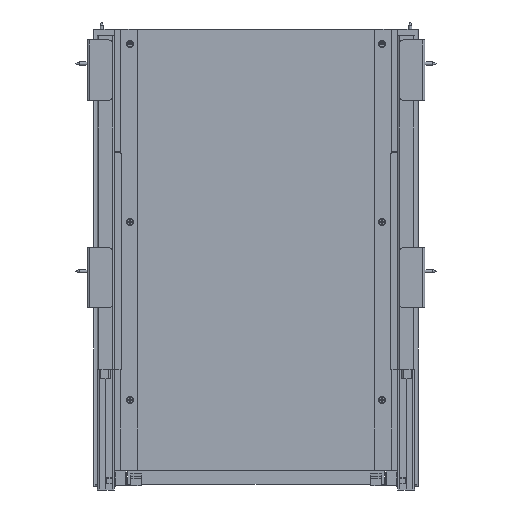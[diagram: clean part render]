
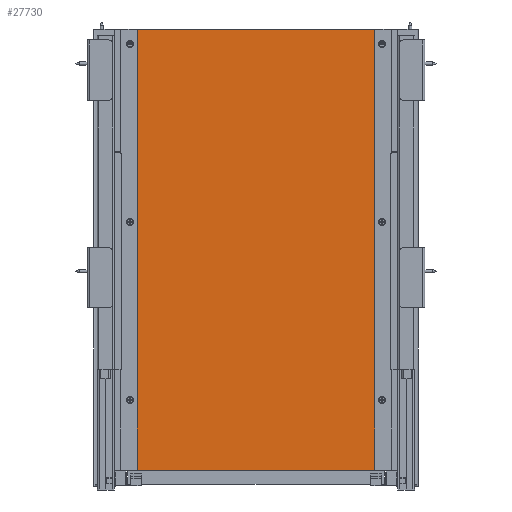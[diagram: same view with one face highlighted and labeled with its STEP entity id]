
A CAD part, front view. The second image highlights one B-rep face of the part: STEP entity #27730.
In plain terms, the highlighted planar face has unit normal (0, -1, 0).
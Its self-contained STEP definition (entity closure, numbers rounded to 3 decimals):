
#2700=FACE_OUTER_BOUND('',#4396,.T.);
#4396=EDGE_LOOP('',(#23817,#23818,#23819,#23820));
#7182=LINE('',#45120,#10302);
#7183=LINE('',#45123,#10303);
#7184=LINE('',#45125,#10304);
#7185=LINE('',#45126,#10305);
#10302=VECTOR('',#36048,10.);
#10303=VECTOR('',#36051,10.);
#10304=VECTOR('',#36052,10.);
#10305=VECTOR('',#36053,10.);
#13105=VERTEX_POINT('',#45113);
#13108=VERTEX_POINT('',#45118);
#13109=VERTEX_POINT('',#45122);
#13110=VERTEX_POINT('',#45124);
#16764=EDGE_CURVE('',#13105,#13108,#7182,.T.);
#16765=EDGE_CURVE('',#13109,#13105,#7183,.T.);
#16766=EDGE_CURVE('',#13110,#13108,#7184,.T.);
#16767=EDGE_CURVE('',#13109,#13110,#7185,.T.);
#23817=ORIENTED_EDGE('',*,*,#16765,.T.);
#23818=ORIENTED_EDGE('',*,*,#16764,.T.);
#23819=ORIENTED_EDGE('',*,*,#16766,.F.);
#23820=ORIENTED_EDGE('',*,*,#16767,.F.);
#26294=PLANE('',#29838);
#27730=ADVANCED_FACE('',(#2700),#26294,.T.);
#29838=AXIS2_PLACEMENT_3D('',#45121,#36049,#36050);
#36048=DIRECTION('',(0.,0.,-1.));
#36049=DIRECTION('center_axis',(0.,-1.,0.));
#36050=DIRECTION('ref_axis',(-1.,0.,0.));
#36051=DIRECTION('',(-1.,0.,0.));
#36052=DIRECTION('',(-1.,0.,0.));
#36053=DIRECTION('',(0.,0.,-1.));
#45113=CARTESIAN_POINT('',(-144.5,22.,11.5));
#45118=CARTESIAN_POINT('',(-144.5,22.,-464.5));
#45120=CARTESIAN_POINT('',(-144.5,22.,11.5));
#45121=CARTESIAN_POINT('Origin',(144.5,22.,11.5));
#45122=CARTESIAN_POINT('',(144.5,22.,11.5));
#45123=CARTESIAN_POINT('',(144.5,22.,11.5));
#45124=CARTESIAN_POINT('',(144.5,22.,-464.5));
#45125=CARTESIAN_POINT('',(144.5,22.,-464.5));
#45126=CARTESIAN_POINT('',(144.5,22.,11.5));
